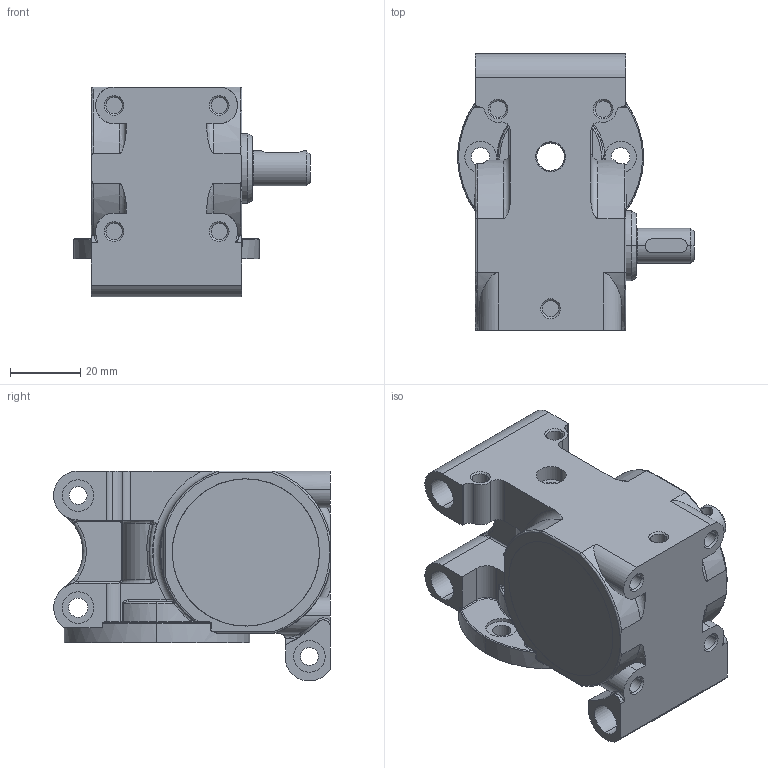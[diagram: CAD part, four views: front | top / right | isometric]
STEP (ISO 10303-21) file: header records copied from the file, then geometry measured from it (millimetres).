
FILE_DESCRIPTION (( 'STEP AP214' ), '1' );
FILE_NAME ('GB58.STEP', '2021-05-20T14:13:01', ( '' ), ( '' ), 'SwSTEP 2.0', 'SolidWorks 2020', '' );
FILE_SCHEMA (( 'AUTOMOTIVE_DESIGN' ));
Length unit declared in the file: millimetre
Products named in the file (1): GB58
Bounding box: 67.5 x 79 x 59.94 mm (x, y, z)
Volume: 114504.2 mm3; surface area: 58793.6 mm2
Topology: 13 solids, 13 shells, 817 faces, 2005 edges, 1249 vertices
Faces by surface type: plane 322, cylinder 282, cone 94, torus 58, bspline 53, sphere 8
Entity records: 36330 total; most frequent: CARTESIAN_POINT 7910, DIRECTION 4071, ORIENTED_EDGE 3978, EDGE_CURVE 1989, AXIS2_PLACEMENT_3D 1504, VERTEX_POINT 1249, LINE 1063, VECTOR 1063
